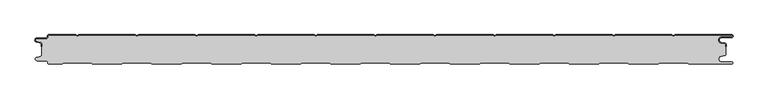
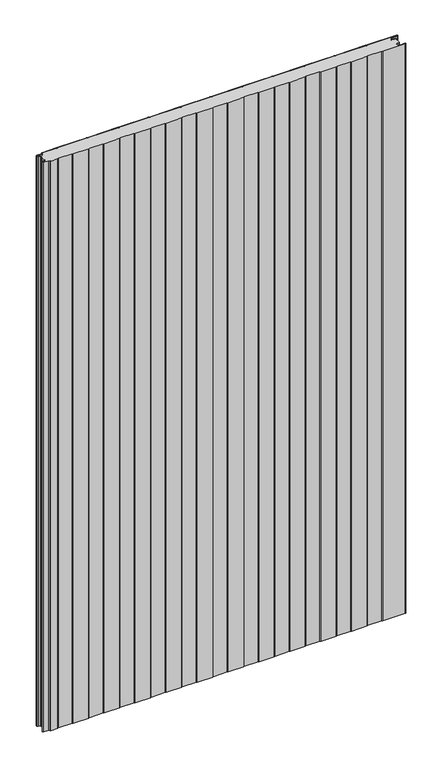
"""IFC4 building model written with IfcOpenShell, lengths in millimetres: plate geometry, PM1_Curtain-Panel_Perfil-Estándar : ACH_PM1_Panel-Acústico-Sectorización_50M."""

from ifc_helpers import new_model, si_unit, point, frame, frame_2d, origin, origin_with_axes, place, context, project, spatial, polyline, circle_curve, trimmed, segment, composite_curve, outline, extrude, source, transform, mapped, element, save
from ifc_brep_helpers import plane_surface, cylinder_surface, revolved_surface, advanced_brep


def plate_92d2c23e(model_context):
    return source(origin(), model_context, "Body", "SolidModel", [
        advanced_brep(
        [(-575.0, -15.878557, 1945.7507136), (-575.0, -20.0, 1945.7507136), (-574.2, -20.0, 1945.7507136), (-574.2, -15.878557, 1945.7507136), (-576.370137, -13.1503208, 1945.7507136), (-582.529863, -11.728236, 1945.7507136), (-581.9, -6.2, 1945.7507136), (-566.4, -6.2, 1945.7507136), (-563.6, -3.4, 1945.7507136), (-563.6, -2.0, 1945.7507136), (-562.4, -0.8, 1945.7507136), (-517.3143588, -0.8, 1945.7507136), (-514.4, -2.482606, 1945.7507136), (-511.4856412, -0.8, 1945.7507136), (-417.3143588, -0.8, 1945.7507136), (-414.4, -2.482606, 1945.7507136), (-411.4856412, -0.8, 1945.7507136), (-317.3143588, -0.8, 1945.7507136), (-314.4, -2.482606, 1945.7507136), (-311.4856412, -0.8, 1945.7507136), (-217.3143588, -0.8, 1945.7507136), (-214.4, -2.482606, 1945.7507136), (-211.4856412, -0.8, 1945.7507136), (-117.3143588, -0.8, 1945.7507136), (-114.4, -2.482606, 1945.7507136), (-111.4856412, -0.8, 1945.7507136), (-17.3143588, -0.8, 1945.7507136), (-14.4, -2.482606, 1945.7507136), (-11.4856412, -0.8, 1945.7507136), (82.6856412, -0.8, 1945.7507136), (85.6, -2.482606, 1945.7507136), (88.5143588, -0.8, 1945.7507136), (182.6856412, -0.8, 1945.7507136), (185.6, -2.482606, 1945.7507136), (188.5143588, -0.8, 1945.7507136), (282.6856412, -0.8, 1945.7507136), (285.6, -2.482606, 1945.7507136), (288.5143588, -0.8, 1945.7507136), (382.6856412, -0.8, 1945.7507136), (385.6, -2.482606, 1945.7507136), (388.5143588, -0.8, 1945.7507136), (482.6856412, -0.8, 1945.7507136), (485.6, -2.482606, 1945.7507136), (488.5143588, -0.8, 1945.7507136), (583.1, -0.8, 1945.7507136), (583.1, -4.2, 1945.7507136), (566.1, -4.2, 1945.7507136), (565.2664884, -13.7270771, 1945.7507136), (571.7125669, -14.8636953, 1945.7507136), (573.2, -16.6363492, 1945.7507136), (573.2, -20.0, 1945.7507136), (574.0, -20.0, 1945.7507136), (574.0, -16.6363492, 1945.7507136), (571.8514855, -14.0758491, 1945.7507136), (565.405407, -12.939231, 1945.7507136), (566.1, -5.0, 1945.7507136), (583.1, -5.0, 1945.7507136), (585.6, -2.5, 1945.7507136), (583.1, 0.0, 1945.7507136), (488.2999995, 0.0, 1945.7507136), (485.6, -1.5588455, 1945.7507136), (482.9000005, 0.0, 1945.7507136), (388.2999995, 0.0, 1945.7507136), (385.6, -1.5588455, 1945.7507136), (382.9000005, 0.0, 1945.7507136), (288.2999995, 0.0, 1945.7507136), (285.6, -1.5588455, 1945.7507136), (282.9000005, 0.0, 1945.7507136), (188.2999995, 0.0, 1945.7507136), (185.6, -1.5588455, 1945.7507136), (182.9000005, 0.0, 1945.7507136), (88.2999995, 0.0, 1945.7507136), (85.6, -1.5588455, 1945.7507136), (82.9000005, 0.0, 1945.7507136), (-11.7000005, 0.0, 1945.7507136), (-14.4, -1.5588455, 1945.7507136), (-17.0999995, 0.0, 1945.7507136), (-111.7000005, 0.0, 1945.7507136), (-114.4, -1.5588455, 1945.7507136), (-117.0999995, 0.0, 1945.7507136), (-211.7000005, 0.0, 1945.7507136), (-214.4, -1.5588455, 1945.7507136), (-217.0999995, 0.0, 1945.7507136), (-311.7000005, 0.0, 1945.7507136), (-314.4, -1.5588455, 1945.7507136), (-317.0999995, 0.0, 1945.7507136), (-411.7000005, 0.0, 1945.7507136), (-414.4, -1.5588455, 1945.7507136), (-417.0999995, 0.0, 1945.7507136), (-511.7000005, 0.0, 1945.7507136), (-514.4, -1.5588455, 1945.7507136), (-517.0999995, 0.0, 1945.7507136), (-562.4, 0.0, 1945.7507136), (-564.4, -2.0, 1945.7507136), (-564.4, -3.4, 1945.7507136), (-566.4, -5.4, 1945.7507136), (-581.9, -5.4, 1945.7507136), (-582.7098239, -12.5077322, 1945.7507136), (-576.5500979, -13.929817, 1945.7507136), (-575.0, -15.878557, 0.0), (-576.5500978, -13.9298169, 0.0), (-582.7098239, -12.507732, 0.0), (-581.9, -5.4, 0.0), (-566.4, -5.4, 0.0), (-564.4, -3.4, 0.0), (-564.4, -2.0, 0.0), (-562.4, 0.0, 0.0), (-517.0999995, 0.0, 0.0), (-514.4, -1.5588455, 0.0), (-511.7000005, 0.0, 0.0), (-417.0999995, 0.0, 0.0), (-414.4, -1.5588455, 0.0), (-411.7000005, 0.0, 0.0), (-317.0999995, 0.0, 0.0), (-314.4, -1.5588455, 0.0), (-311.7000005, 0.0, 0.0), (-217.0999995, 0.0, 0.0), (-214.4, -1.5588455, 0.0), (-211.7000005, 0.0, 0.0), (-117.0999995, 0.0, 0.0), (-114.4, -1.5588455, 0.0), (-111.7000005, 0.0, 0.0), (-17.0999995, 0.0, 0.0), (-14.4, -1.5588455, 0.0), (-11.7000005, 0.0, 0.0), (82.9000005, 0.0, 0.0), (85.6, -1.5588455, 0.0), (88.2999995, 0.0, 0.0), (182.9000005, 0.0, 0.0), (185.6, -1.5588455, 0.0), (188.2999995, 0.0, 0.0), (282.9000005, 0.0, 0.0), (285.6, -1.5588455, 0.0), (288.2999995, 0.0, 0.0), (382.9000005, 0.0, 0.0), (385.6, -1.5588455, 0.0), (388.2999995, 0.0, 0.0), (482.9000005, 0.0, 0.0), (485.6, -1.5588455, 0.0), (488.2999995, 0.0, 0.0), (583.1, 0.0, 0.0), (585.6, -2.5, 0.0), (583.1, -5.0, 0.0), (566.1, -5.0, 0.0), (565.405407, -12.939231, 0.0), (571.8514855, -14.0758491, 0.0), (574.0, -16.6363492, 0.0), (574.0, -20.0, 0.0), (573.2, -20.0, 0.0), (573.2, -16.6363492, 0.0), (571.7125669, -14.8636953, 0.0), (565.2664884, -13.7270772, 0.0), (566.1, -4.2, 0.0), (583.1, -4.2, 0.0), (583.1, -0.8, 0.0), (488.5143588, -0.8, 0.0), (485.6, -2.482606, 0.0), (482.6856412, -0.8, 0.0), (388.5143588, -0.8, 0.0), (385.6, -2.482606, 0.0), (382.6856412, -0.8, 0.0), (288.5143588, -0.8, 0.0), (285.6, -2.482606, 0.0), (282.6856412, -0.8, 0.0), (188.5143588, -0.8, 0.0), (185.6, -2.482606, 0.0), (182.6856412, -0.8, 0.0), (88.5143588, -0.8, 0.0), (85.6, -2.482606, 0.0), (82.6856412, -0.8, 0.0), (-11.4856412, -0.8, 0.0), (-14.4, -2.482606, 0.0), (-17.3143588, -0.8, 0.0), (-111.4856412, -0.8, 0.0), (-114.4, -2.482606, 0.0), (-117.3143588, -0.8, 0.0), (-211.4856412, -0.8, 0.0), (-214.4, -2.482606, 0.0), (-217.3143588, -0.8, 0.0), (-311.4856412, -0.8, 0.0), (-314.4, -2.482606, 0.0), (-317.3143588, -0.8, 0.0), (-411.4856412, -0.8, 0.0), (-414.4, -2.482606, 0.0), (-417.3143588, -0.8, 0.0), (-511.4856412, -0.8, 0.0), (-514.4, -2.482606, 0.0), (-517.3143588, -0.8, 0.0), (-562.4, -0.8, 0.0), (-563.6, -2.0, 0.0), (-563.6, -3.4, 0.0), (-566.4, -6.2, 0.0), (-581.9, -6.2, 0.0), (-582.529863, -11.7282362, 0.0), (-576.370137, -13.150321, 0.0), (-574.2, -15.878557, 0.0), (-574.2, -20.0, 0.0), (-575.0, -20.0, 0.0)],
        [
            (0, 1),
            (1, 2),
            (2, 3),
            (3, 4, circle_curve(frame((-577.0, -15.878557, 1945.7507136), z_axis=(0.0, 0.0, 1.0), x_axis=(1.0, 0.0, 0.0)), 2.8)),
            (4, 5),
            (5, 6, circle_curve(frame((-581.9, -9.0, 1945.7507136), z_axis=(0.0, 0.0, -1.0), x_axis=(1.0, 0.0, 0.0)), 2.8)),
            (6, 7),
            (7, 8, circle_curve(frame((-566.4, -3.4, 1945.7507136), z_axis=(0.0, 0.0, 1.0), x_axis=(1.0, 0.0, 0.0)), 2.8)),
            (8, 9),
            (9, 10, circle_curve(frame((-562.4, -2.0, 1945.7507136), z_axis=(0.0, 0.0, -1.0), x_axis=(1.0, 0.0, 0.0)), 1.2)),
            (10, 11),
            (11, 12),
            (12, 13),
            (13, 14),
            (14, 15),
            (15, 16),
            (16, 17),
            (17, 18),
            (18, 19),
            (19, 20),
            (20, 21),
            (21, 22),
            (22, 23),
            (23, 24),
            (24, 25),
            (25, 26),
            (26, 27),
            (27, 28),
            (28, 29),
            (29, 30),
            (30, 31),
            (31, 32),
            (32, 33),
            (33, 34),
            (34, 35),
            (35, 36),
            (36, 37),
            (37, 38),
            (38, 39),
            (39, 40),
            (40, 41),
            (41, 42),
            (42, 43),
            (43, 44),
            (44, 45, circle_curve(frame((583.1, -2.5, 1945.7507136), z_axis=(0.0, 0.0, -1.0), x_axis=(1.0, 0.0, 0.0)), 1.7)),
            (45, 46),
            (46, 47, circle_curve(frame((566.1, -9.0, 1945.7507136), z_axis=(0.0, 0.0, 1.0), x_axis=(1.0, 0.0, 0.0)), 4.8)),
            (47, 48),
            (48, 49, circle_curve(frame((571.4, -16.6363492, 1945.7507136), z_axis=(0.0, 0.0, -1.0), x_axis=(1.0, 0.0, 0.0)), 1.8)),
            (49, 50),
            (50, 51),
            (51, 52),
            (52, 53, circle_curve(frame((571.4, -16.6363492, 1945.7507136), z_axis=(0.0, 0.0, 1.0), x_axis=(1.0, 0.0, 0.0)), 2.6)),
            (53, 54),
            (54, 55, circle_curve(frame((566.1, -9.0, 1945.7507136), z_axis=(0.0, 0.0, -1.0), x_axis=(1.0, 0.0, 0.0)), 4.0)),
            (55, 56),
            (56, 57, circle_curve(frame((583.1, -2.5, 1945.7507136), z_axis=(0.0, 0.0, 1.0), x_axis=(1.0, 0.0, 0.0)), 2.5)),
            (57, 58, circle_curve(frame((583.1, -2.5, 1945.7507136), z_axis=(0.0, 0.0, 1.0), x_axis=(1.0, 0.0, 0.0)), 2.5)),
            (58, 59),
            (59, 60),
            (60, 61),
            (61, 62),
            (62, 63),
            (63, 64),
            (64, 65),
            (65, 66),
            (66, 67),
            (67, 68),
            (68, 69),
            (69, 70),
            (70, 71),
            (71, 72),
            (72, 73),
            (73, 74),
            (74, 75),
            (75, 76),
            (76, 77),
            (77, 78),
            (78, 79),
            (79, 80),
            (80, 81),
            (81, 82),
            (82, 83),
            (83, 84),
            (84, 85),
            (85, 86),
            (86, 87),
            (87, 88),
            (88, 89),
            (89, 90),
            (90, 91),
            (91, 92),
            (92, 93, circle_curve(frame((-562.4, -2.0, 1945.7507136), z_axis=(0.0, 0.0, 1.0), x_axis=(1.0, 0.0, 0.0)), 2.0)),
            (93, 94),
            (94, 95, circle_curve(frame((-566.4, -3.4, 1945.7507136), z_axis=(0.0, 0.0, -1.0), x_axis=(1.0, 0.0, 0.0)), 2.0)),
            (95, 96),
            (96, 97, circle_curve(frame((-581.9, -9.0, 1945.7507136), z_axis=(0.0, 0.0, 1.0), x_axis=(1.0, 0.0, 0.0)), 3.6)),
            (97, 98),
            (98, 0, circle_curve(frame((-577.0, -15.878557, 1945.7507136), z_axis=(0.0, 0.0, -1.0), x_axis=(1.0, 0.0, 0.0)), 2.0)),
            (99, 100, circle_curve(frame((-577.0, -15.878557, 0.0), z_axis=(0.0, 0.0, 1.0), x_axis=(1.0, 0.0, 0.0)), 2.0)),
            (100, 101),
            (101, 102, circle_curve(frame((-581.9, -9.0, 0.0), z_axis=(0.0, 0.0, -1.0), x_axis=(1.0, 0.0, 0.0)), 3.6)),
            (102, 103),
            (103, 104, circle_curve(frame((-566.4, -3.4, 0.0), z_axis=(0.0, 0.0, 1.0), x_axis=(1.0, 0.0, 0.0)), 2.0)),
            (104, 105),
            (105, 106, circle_curve(frame((-562.4, -2.0, 0.0), z_axis=(0.0, 0.0, -1.0), x_axis=(1.0, 0.0, 0.0)), 2.0)),
            (106, 107),
            (107, 108),
            (108, 109),
            (109, 110),
            (110, 111),
            (111, 112),
            (112, 113),
            (113, 114),
            (114, 115),
            (115, 116),
            (116, 117),
            (117, 118),
            (118, 119),
            (119, 120),
            (120, 121),
            (121, 122),
            (122, 123),
            (123, 124),
            (124, 125),
            (125, 126),
            (126, 127),
            (127, 128),
            (128, 129),
            (129, 130),
            (130, 131),
            (131, 132),
            (132, 133),
            (133, 134),
            (134, 135),
            (135, 136),
            (136, 137),
            (137, 138),
            (138, 139),
            (139, 140),
            (140, 141, circle_curve(frame((583.1, -2.5, 0.0), z_axis=(0.0, 0.0, -1.0), x_axis=(1.0, 0.0, 0.0)), 2.5)),
            (141, 142, circle_curve(frame((583.1, -2.5, 0.0), z_axis=(0.0, 0.0, -1.0), x_axis=(1.0, 0.0, 0.0)), 2.5)),
            (142, 143),
            (143, 144, circle_curve(frame((566.1, -9.0, 0.0), z_axis=(0.0, 0.0, 1.0), x_axis=(1.0, 0.0, 0.0)), 4.0)),
            (144, 145),
            (145, 146, circle_curve(frame((571.4, -16.6363492, 0.0), z_axis=(0.0, 0.0, -1.0), x_axis=(1.0, 0.0, 0.0)), 2.6)),
            (146, 147),
            (147, 148),
            (148, 149),
            (149, 150, circle_curve(frame((571.4, -16.6363492, 0.0), z_axis=(0.0, 0.0, 1.0), x_axis=(1.0, 0.0, 0.0)), 1.8)),
            (150, 151),
            (151, 152, circle_curve(frame((566.1, -9.0, 0.0), z_axis=(0.0, 0.0, -1.0), x_axis=(1.0, 0.0, 0.0)), 4.8)),
            (152, 153),
            (153, 154, circle_curve(frame((583.1, -2.5, 0.0), z_axis=(0.0, 0.0, 1.0), x_axis=(1.0, 0.0, 0.0)), 1.7)),
            (154, 155),
            (155, 156),
            (156, 157),
            (157, 158),
            (158, 159),
            (159, 160),
            (160, 161),
            (161, 162),
            (162, 163),
            (163, 164),
            (164, 165),
            (165, 166),
            (166, 167),
            (167, 168),
            (168, 169),
            (169, 170),
            (170, 171),
            (171, 172),
            (172, 173),
            (173, 174),
            (174, 175),
            (175, 176),
            (176, 177),
            (177, 178),
            (178, 179),
            (179, 180),
            (180, 181),
            (181, 182),
            (182, 183),
            (183, 184),
            (184, 185),
            (185, 186),
            (186, 187),
            (187, 188),
            (188, 189, circle_curve(frame((-562.4, -2.0, 0.0), z_axis=(0.0, 0.0, 1.0), x_axis=(1.0, 0.0, 0.0)), 1.2)),
            (189, 190),
            (190, 191, circle_curve(frame((-566.4, -3.4, 0.0), z_axis=(0.0, 0.0, -1.0), x_axis=(1.0, 0.0, 0.0)), 2.8)),
            (191, 192),
            (192, 193, circle_curve(frame((-581.9, -9.0, 0.0), z_axis=(0.0, 0.0, 1.0), x_axis=(1.0, 0.0, 0.0)), 2.8)),
            (193, 194),
            (194, 195, circle_curve(frame((-577.0, -15.878557, 0.0), z_axis=(0.0, 0.0, -1.0), x_axis=(1.0, 0.0, 0.0)), 2.8)),
            (195, 196),
            (196, 197),
            (197, 99),
            (0, 99),
            (197, 1),
            (196, 2),
            (195, 3),
            (194, 4),
            (193, 5),
            (192, 6),
            (191, 7),
            (190, 8),
            (189, 9),
            (188, 10),
            (187, 11),
            (186, 12),
            (185, 13),
            (184, 14),
            (183, 15),
            (182, 16),
            (181, 17),
            (180, 18),
            (179, 19),
            (178, 20),
            (177, 21),
            (176, 22),
            (175, 23),
            (174, 24),
            (173, 25),
            (172, 26),
            (171, 27),
            (170, 28),
            (169, 29),
            (168, 30),
            (167, 31),
            (166, 32),
            (165, 33),
            (164, 34),
            (163, 35),
            (162, 36),
            (161, 37),
            (160, 38),
            (159, 39),
            (158, 40),
            (157, 41),
            (156, 42),
            (155, 43),
            (154, 44),
            (153, 45),
            (152, 46),
            (151, 47),
            (150, 48),
            (149, 49),
            (148, 50),
            (147, 51),
            (146, 52),
            (145, 53),
            (144, 54),
            (143, 55),
            (142, 56),
            (140, 58),
            (139, 59),
            (138, 60),
            (137, 61),
            (136, 62),
            (135, 63),
            (134, 64),
            (133, 65),
            (132, 66),
            (131, 67),
            (130, 68),
            (129, 69),
            (128, 70),
            (127, 71),
            (126, 72),
            (125, 73),
            (124, 74),
            (123, 75),
            (122, 76),
            (121, 77),
            (120, 78),
            (119, 79),
            (118, 80),
            (117, 81),
            (116, 82),
            (115, 83),
            (114, 84),
            (113, 85),
            (112, 86),
            (111, 87),
            (110, 88),
            (109, 89),
            (108, 90),
            (107, 91),
            (106, 92),
            (105, 93),
            (104, 94),
            (103, 95),
            (102, 96),
            (101, 97),
            (100, 98),
        ],
        [
            plane_surface(frame((-575.0, 0.0, 1945.7507136), z_axis=(0.0, 0.0, 1.0), x_axis=(0.0, 1.0, 0.0))),
            plane_surface(frame((-575.0, 0.0, 0.0), z_axis=(0.0, 0.0, -1.0), x_axis=(0.0, 1.0, 0.0))),
            plane_surface(frame((-575.0, -15.878557, 1945.7507136), z_axis=(-1.0, 0.0, 0.0), x_axis=(0.0, 0.0, -1.0))),
            plane_surface(frame((-575.0, -20.0, 1945.7507136), z_axis=(0.0, -1.0, 0.0), x_axis=(0.0, 0.0, -1.0))),
            plane_surface(frame((-574.2, -20.0, 1945.7507136), z_axis=(1.0, 0.0, 0.0), x_axis=(0.0, 0.0, -1.0))),
            cylinder_surface(frame((-577.0, -15.878557, 1945.7507136), z_axis=(0.0, 0.0, 1.0), x_axis=(1.0, 0.0, 0.0)), 2.8),
            plane_surface(frame((-576.370137, -13.150321, 1945.7507136), z_axis=(0.22495108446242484, 0.9743700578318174, 0.0), x_axis=(0.0, 0.0, -1.0))),
            revolved_surface(polyline([(-579.1, -9.0, 0.0), (-579.1, -9.0, 1945.7507136)]), (-581.9, -9.0, 1945.7507136), (0.0, 0.0, -1.0)),
            plane_surface(frame((-581.9, -6.2, 1945.7507136), z_axis=(0.0, -1.0, 0.0), x_axis=(0.0, 0.0, -1.0))),
            cylinder_surface(frame((-566.4, -3.4, 1945.7507136), z_axis=(0.0, 0.0, 1.0), x_axis=(1.0, 0.0, 0.0)), 2.8),
            plane_surface(frame((-563.6, -3.4, 1945.7507136), z_axis=(1.0, 0.0, 0.0), x_axis=(0.0, 0.0, -1.0))),
            revolved_surface(polyline([(-561.1999999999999, -2.0, 0.0), (-561.1999999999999, -2.0, 1945.7507136)]), (-562.4, -2.0, 1945.7507136), (0.0, 0.0, -1.0)),
            plane_surface(frame((-562.4, -0.8, 1945.7507136), z_axis=(0.0, -1.0, 0.0), x_axis=(0.0, 0.0, -1.0))),
            plane_surface(frame((-517.3143588, -0.8, 1945.7507136), z_axis=(-0.5000000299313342, -0.8660253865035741, 0.0), x_axis=(0.0, 0.0, -1.0))),
            plane_surface(frame((-514.4, -2.482606, 1945.7507136), z_axis=(0.5000000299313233, -0.8660253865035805, 0.0), x_axis=(0.0, 0.0, -1.0))),
            plane_surface(frame((-511.4856412, -0.8, 1945.7507136), z_axis=(0.0, -1.0, 0.0), x_axis=(0.0, 0.0, -1.0))),
            plane_surface(frame((-417.3143588, -0.8, 1945.7507136), z_axis=(-0.5000000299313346, -0.8660253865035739, 0.0), x_axis=(0.0, 0.0, -1.0))),
            plane_surface(frame((-414.4, -2.482606, 1945.7507136), z_axis=(0.5000000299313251, -0.8660253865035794, 0.0), x_axis=(0.0, 0.0, -1.0))),
            plane_surface(frame((-411.4856412, -0.8, 1945.7507136), z_axis=(0.0, -1.0, 0.0), x_axis=(0.0, 0.0, -1.0))),
            plane_surface(frame((-317.3143588, -0.8, 1945.7507136), z_axis=(-0.5000000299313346, -0.866025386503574, 0.0), x_axis=(0.0, 0.0, -1.0))),
            plane_surface(frame((-314.4, -2.482606, 1945.7507136), z_axis=(0.5000000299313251, -0.8660253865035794, 0.0), x_axis=(0.0, 0.0, -1.0))),
            plane_surface(frame((-311.4856412, -0.8, 1945.7507136), z_axis=(0.0, -1.0, 0.0), x_axis=(0.0, 0.0, -1.0))),
            plane_surface(frame((-217.3143588, -0.8, 1945.7507136), z_axis=(-0.5000000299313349, -0.8660253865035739, 0.0), x_axis=(0.0, 0.0, -1.0))),
            plane_surface(frame((-214.4, -2.482606, 1945.7507136), z_axis=(0.5000000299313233, -0.8660253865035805, 0.0), x_axis=(0.0, 0.0, -1.0))),
            plane_surface(frame((-211.4856412, -0.8, 1945.7507136), z_axis=(0.0, -1.0, 0.0), x_axis=(0.0, 0.0, -1.0))),
            plane_surface(frame((-117.3143588, -0.8, 1945.7507136), z_axis=(-0.5000000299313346, -0.866025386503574, 0.0), x_axis=(0.0, 0.0, -1.0))),
            plane_surface(frame((-114.4, -2.482606, 1945.7507136), z_axis=(0.5000000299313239, -0.8660253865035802, 0.0), x_axis=(0.0, 0.0, -1.0))),
            plane_surface(frame((-111.4856412, -0.8, 1945.7507136), z_axis=(0.0, -1.0, 0.0), x_axis=(0.0, 0.0, -1.0))),
            plane_surface(frame((-17.3143588, -0.8, 1945.7507136), z_axis=(-0.5000000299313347, -0.8660253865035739, 0.0), x_axis=(0.0, 0.0, -1.0))),
            plane_surface(frame((-14.4, -2.482606, 1945.7507136), z_axis=(0.5000000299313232, -0.8660253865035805, 0.0), x_axis=(0.0, 0.0, -1.0))),
            plane_surface(frame((-11.4856412, -0.8, 1945.7507136), z_axis=(0.0, -1.0, 0.0), x_axis=(0.0, 0.0, -1.0))),
            plane_surface(frame((82.6856412, -0.8, 1945.7507136), z_axis=(-0.5000000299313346, -0.866025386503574, 0.0), x_axis=(0.0, 0.0, -1.0))),
            plane_surface(frame((85.6, -2.482606, 1945.7507136), z_axis=(0.5000000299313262, -0.8660253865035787, 0.0), x_axis=(0.0, 0.0, -1.0))),
            plane_surface(frame((88.5143588, -0.8, 1945.7507136), z_axis=(0.0, -1.0, 0.0), x_axis=(0.0, 0.0, -1.0))),
            plane_surface(frame((182.6856412, -0.8, 1945.7507136), z_axis=(-0.5000000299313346, -0.8660253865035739, 0.0), x_axis=(0.0, 0.0, -1.0))),
            plane_surface(frame((185.6, -2.482606, 1945.7507136), z_axis=(0.5000000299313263, -0.8660253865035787, 0.0), x_axis=(0.0, 0.0, -1.0))),
            plane_surface(frame((188.5143588, -0.8, 1945.7507136), z_axis=(0.0, -1.0, 0.0), x_axis=(0.0, 0.0, -1.0))),
            plane_surface(frame((282.6856412, -0.8, 1945.7507136), z_axis=(-0.5000000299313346, -0.8660253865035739, 0.0), x_axis=(0.0, 0.0, -1.0))),
            plane_surface(frame((285.6, -2.482606, 1945.7507136), z_axis=(0.5000000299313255, -0.8660253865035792, 0.0), x_axis=(0.0, 0.0, -1.0))),
            plane_surface(frame((288.5143588, -0.8, 1945.7507136), z_axis=(0.0, -1.0, 0.0), x_axis=(0.0, 0.0, -1.0))),
            plane_surface(frame((382.6856412, -0.8, 1945.7507136), z_axis=(-0.5000000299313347, -0.8660253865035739, 0.0), x_axis=(0.0, 0.0, -1.0))),
            plane_surface(frame((385.6, -2.482606, 1945.7507136), z_axis=(0.5000000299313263, -0.8660253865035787, 0.0), x_axis=(0.0, 0.0, -1.0))),
            plane_surface(frame((388.5143588, -0.8, 1945.7507136), z_axis=(0.0, -1.0, 0.0), x_axis=(0.0, 0.0, -1.0))),
            plane_surface(frame((482.6856412, -0.8, 1945.7507136), z_axis=(-0.5000000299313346, -0.866025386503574, 0.0), x_axis=(0.0, 0.0, -1.0))),
            plane_surface(frame((485.6, -2.482606, 1945.7507136), z_axis=(0.5000000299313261, -0.8660253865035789, 0.0), x_axis=(0.0, 0.0, -1.0))),
            plane_surface(frame((535.6, -0.8, 1945.7507136), z_axis=(0.0, -1.0, 0.0), x_axis=(0.0, 0.0, -1.0))),
            revolved_surface(polyline([(584.8000000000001, -2.5, 0.0), (584.8000000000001, -2.5, 1945.7507136)]), (583.1, -2.5, 1945.7507136), (0.0, 0.0, -1.0)),
            plane_surface(frame((583.1, -4.2, 1945.7507136), z_axis=(0.0, 1.0, 0.0), x_axis=(0.0, 0.0, -1.0))),
            cylinder_surface(frame((566.1, -9.0, 1945.7507136), z_axis=(0.0, 0.0, 1.0), x_axis=(1.0, 0.0, 0.0)), 4.8),
            plane_surface(frame((565.2664884, -13.7270772, 1945.7507136), z_axis=(-0.17364825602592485, -0.9848077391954, 0.0), x_axis=(0.0, 0.0, -1.0))),
            revolved_surface(polyline([(573.1999999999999, -16.6363492, 0.0), (573.1999999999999, -16.6363492, 1945.7507136)]), (571.4, -16.6363492, 1945.7507136), (0.0, 0.0, -1.0)),
            plane_surface(frame((573.2, -16.6363492, 1945.7507136), z_axis=(-1.0, 0.0, 0.0), x_axis=(0.0, 0.0, -1.0))),
            plane_surface(frame((573.2, -20.0, 1945.7507136), z_axis=(0.0, -1.0, 0.0), x_axis=(0.0, 0.0, -1.0))),
            plane_surface(frame((574.0, -20.0, 1945.7507136), z_axis=(1.0, 0.0, 0.0), x_axis=(0.0, 0.0, -1.0))),
            cylinder_surface(frame((571.4, -16.6363492, 1945.7507136), z_axis=(0.0, 0.0, 1.0), x_axis=(1.0, 0.0, 0.0)), 2.6),
            plane_surface(frame((571.8514855, -14.0758491, 1945.7507136), z_axis=(0.1736482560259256, 0.9848077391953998, 0.0), x_axis=(0.0, 0.0, -1.0))),
            revolved_surface(polyline([(570.1, -9.0, 0.0), (570.1, -9.0, 1945.7507136)]), (566.1, -9.0, 1945.7507136), (0.0, 0.0, -1.0)),
            plane_surface(frame((566.1, -5.0, 1945.7507136), z_axis=(0.0, -1.0, 0.0), x_axis=(0.0, 0.0, -1.0))),
            cylinder_surface(frame((583.1, -2.5, 1945.7507136), z_axis=(0.0, 0.0, 1.0), x_axis=(1.0, 0.0, 0.0)), 2.5),
            plane_surface(frame((535.6, 0.0, 1945.7507136), z_axis=(0.0, 1.0, 0.0), x_axis=(0.0, 0.0, -1.0))),
            plane_surface(frame((488.2999995, 0.0, 1945.7507136), z_axis=(-0.5000000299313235, 0.8660253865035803, 0.0), x_axis=(0.0, 0.0, -1.0))),
            plane_surface(frame((485.6, -1.5588455, 1945.7507136), z_axis=(0.5000000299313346, 0.8660253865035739, 0.0), x_axis=(0.0, 0.0, -1.0))),
            plane_surface(frame((482.9000005, 0.0, 1945.7507136), z_axis=(0.0, 1.0, 0.0), x_axis=(0.0, 0.0, -1.0))),
            plane_surface(frame((388.2999995, 0.0, 1945.7507136), z_axis=(-0.5000000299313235, 0.8660253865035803, 0.0), x_axis=(0.0, 0.0, -1.0))),
            plane_surface(frame((385.6, -1.5588455, 1945.7507136), z_axis=(0.5000000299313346, 0.8660253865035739, 0.0), x_axis=(0.0, 0.0, -1.0))),
            plane_surface(frame((382.9000005, 0.0, 1945.7507136), z_axis=(0.0, 1.0, 0.0), x_axis=(0.0, 0.0, -1.0))),
            plane_surface(frame((288.2999995, 0.0, 1945.7507136), z_axis=(-0.5000000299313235, 0.8660253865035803, 0.0), x_axis=(0.0, 0.0, -1.0))),
            plane_surface(frame((285.6, -1.5588455, 1945.7507136), z_axis=(0.5000000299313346, 0.8660253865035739, 0.0), x_axis=(0.0, 0.0, -1.0))),
            plane_surface(frame((282.9000005, 0.0, 1945.7507136), z_axis=(0.0, 1.0, 0.0), x_axis=(0.0, 0.0, -1.0))),
            plane_surface(frame((188.2999995, 0.0, 1945.7507136), z_axis=(-0.5000000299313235, 0.8660253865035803, 0.0), x_axis=(0.0, 0.0, -1.0))),
            plane_surface(frame((185.6, -1.5588455, 1945.7507136), z_axis=(0.5000000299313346, 0.8660253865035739, 0.0), x_axis=(0.0, 0.0, -1.0))),
            plane_surface(frame((182.9000005, 0.0, 1945.7507136), z_axis=(0.0, 1.0, 0.0), x_axis=(0.0, 0.0, -1.0))),
            plane_surface(frame((88.2999995, 0.0, 1945.7507136), z_axis=(-0.5000000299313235, 0.8660253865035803, 0.0), x_axis=(0.0, 0.0, -1.0))),
            plane_surface(frame((85.6, -1.5588455, 1945.7507136), z_axis=(0.5000000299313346, 0.8660253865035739, 0.0), x_axis=(0.0, 0.0, -1.0))),
            plane_surface(frame((82.9000005, 0.0, 1945.7507136), z_axis=(0.0, 1.0, 0.0), x_axis=(0.0, 0.0, -1.0))),
            plane_surface(frame((-11.7000005, 0.0, 1945.7507136), z_axis=(-0.5000000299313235, 0.8660253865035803, 0.0), x_axis=(0.0, 0.0, -1.0))),
            plane_surface(frame((-14.4, -1.5588455, 1945.7507136), z_axis=(0.5000000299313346, 0.8660253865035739, 0.0), x_axis=(0.0, 0.0, -1.0))),
            plane_surface(frame((-17.0999995, 0.0, 1945.7507136), z_axis=(0.0, 1.0, 0.0), x_axis=(0.0, 0.0, -1.0))),
            plane_surface(frame((-111.7000005, 0.0, 1945.7507136), z_axis=(-0.5000000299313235, 0.8660253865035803, 0.0), x_axis=(0.0, 0.0, -1.0))),
            plane_surface(frame((-114.4, -1.5588455, 1945.7507136), z_axis=(0.5000000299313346, 0.8660253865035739, 0.0), x_axis=(0.0, 0.0, -1.0))),
            plane_surface(frame((-117.0999995, 0.0, 1945.7507136), z_axis=(0.0, 1.0, 0.0), x_axis=(0.0, 0.0, -1.0))),
            plane_surface(frame((-211.7000005, 0.0, 1945.7507136), z_axis=(-0.5000000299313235, 0.8660253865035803, 0.0), x_axis=(0.0, 0.0, -1.0))),
            plane_surface(frame((-214.4, -1.5588455, 1945.7507136), z_axis=(0.5000000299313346, 0.8660253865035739, 0.0), x_axis=(0.0, 0.0, -1.0))),
            plane_surface(frame((-217.0999995, 0.0, 1945.7507136), z_axis=(0.0, 1.0, 0.0), x_axis=(0.0, 0.0, -1.0))),
            plane_surface(frame((-311.7000005, 0.0, 1945.7507136), z_axis=(-0.5000000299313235, 0.8660253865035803, 0.0), x_axis=(0.0, 0.0, -1.0))),
            plane_surface(frame((-314.4, -1.5588455, 1945.7507136), z_axis=(0.5000000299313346, 0.8660253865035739, 0.0), x_axis=(0.0, 0.0, -1.0))),
            plane_surface(frame((-317.0999995, 0.0, 1945.7507136), z_axis=(0.0, 1.0, 0.0), x_axis=(0.0, 0.0, -1.0))),
            plane_surface(frame((-411.7000005, 0.0, 1945.7507136), z_axis=(-0.5000000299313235, 0.8660253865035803, 0.0), x_axis=(0.0, 0.0, -1.0))),
            plane_surface(frame((-414.4, -1.5588455, 1945.7507136), z_axis=(0.5000000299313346, 0.8660253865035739, 0.0), x_axis=(0.0, 0.0, -1.0))),
            plane_surface(frame((-417.0999995, 0.0, 1945.7507136), z_axis=(0.0, 1.0, 0.0), x_axis=(0.0, 0.0, -1.0))),
            plane_surface(frame((-511.7000005, 0.0, 1945.7507136), z_axis=(-0.5000000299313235, 0.8660253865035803, 0.0), x_axis=(0.0, 0.0, -1.0))),
            plane_surface(frame((-514.4, -1.5588455, 1945.7507136), z_axis=(0.5000000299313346, 0.8660253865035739, 0.0), x_axis=(0.0, 0.0, -1.0))),
            plane_surface(frame((-517.0999995, 0.0, 1945.7507136), z_axis=(0.0, 1.0, 0.0), x_axis=(0.0, 0.0, -1.0))),
            cylinder_surface(frame((-562.4, -2.0, 1945.7507136), z_axis=(0.0, 0.0, 1.0), x_axis=(1.0, 0.0, 0.0)), 2.0),
            plane_surface(frame((-564.4, -2.0, 1945.7507136), z_axis=(-1.0, 0.0, 0.0), x_axis=(0.0, 0.0, -1.0))),
            revolved_surface(polyline([(-564.4, -3.4, 0.0), (-564.4, -3.4, 1945.7507136)]), (-566.4, -3.4, 1945.7507136), (0.0, 0.0, -1.0)),
            plane_surface(frame((-566.4, -5.4, 1945.7507136), z_axis=(0.0, 1.0, 0.0), x_axis=(0.0, 0.0, -1.0))),
            cylinder_surface(frame((-581.9, -9.0, 1945.7507136), z_axis=(0.0, 0.0, 1.0), x_axis=(1.0, 0.0, 0.0)), 3.6),
            plane_surface(frame((-582.7098239, -12.507732, 1945.7507136), z_axis=(-0.22495108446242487, -0.9743700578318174, 0.0), x_axis=(0.0, 0.0, -1.0))),
            revolved_surface(polyline([(-575.0, -15.878557, 0.0), (-575.0, -15.878557, 1945.7507136)]), (-577.0, -15.878557, 1945.7507136), (0.0, 0.0, -1.0)),
        ],
        [
            (0, [[1, 2, 3, 4, 5, 6, 7, 8, 9, 10, 11, 12, 13, 14, 15, 16, 17, 18, 19, 20, 21, 22, 23, 24, 25, 26, 27, 28, 29, 30, 31, 32, 33, 34, 35, 36, 37, 38, 39, 40, 41, 42, 43, 44, 45, 46, 47, 48, 49, 50, 51, 52, 53, 54, 55, 56, 57, 58, 59, 60, 61, 62, 63, 64, 65, 66, 67, 68, 69, 70, 71, 72, 73, 74, 75, 76, 77, 78, 79, 80, 81, 82, 83, 84, 85, 86, 87, 88, 89, 90, 91, 92, 93, 94, 95, 96, 97, 98, 99]]),
            (1, [[100, 101, 102, 103, 104, 105, 106, 107, 108, 109, 110, 111, 112, 113, 114, 115, 116, 117, 118, 119, 120, 121, 122, 123, 124, 125, 126, 127, 128, 129, 130, 131, 132, 133, 134, 135, 136, 137, 138, 139, 140, 141, 142, 143, 144, 145, 146, 147, 148, 149, 150, 151, 152, 153, 154, 155, 156, 157, 158, 159, 160, 161, 162, 163, 164, 165, 166, 167, 168, 169, 170, 171, 172, 173, 174, 175, 176, 177, 178, 179, 180, 181, 182, 183, 184, 185, 186, 187, 188, 189, 190, 191, 192, 193, 194, 195, 196, 197, 198]]),
            (2, [[-1, 199, -198, 200]]),
            (3, [[-2, -200, -197, 201]]),
            (4, [[-3, -201, -196, 202]]),
            (5, [[-4, -202, -195, 203]]),
            (6, [[-5, -203, -194, 204]]),
            (7, [[-6, -204, -193, 205]]),
            (8, [[-7, -205, -192, 206]]),
            (9, [[-8, -206, -191, 207]]),
            (10, [[-9, -207, -190, 208]]),
            (11, [[-10, -208, -189, 209]]),
            (12, [[-11, -209, -188, 210]]),
            (13, [[-12, -210, -187, 211]]),
            (14, [[-13, -211, -186, 212]]),
            (15, [[-14, -212, -185, 213]]),
            (16, [[-15, -213, -184, 214]]),
            (17, [[-16, -214, -183, 215]]),
            (18, [[-17, -215, -182, 216]]),
            (19, [[-18, -216, -181, 217]]),
            (20, [[-19, -217, -180, 218]]),
            (21, [[-20, -218, -179, 219]]),
            (22, [[-21, -219, -178, 220]]),
            (23, [[-22, -220, -177, 221]]),
            (24, [[-23, -221, -176, 222]]),
            (25, [[-24, -222, -175, 223]]),
            (26, [[-25, -223, -174, 224]]),
            (27, [[-26, -224, -173, 225]]),
            (28, [[-27, -225, -172, 226]]),
            (29, [[-28, -226, -171, 227]]),
            (30, [[-29, -227, -170, 228]]),
            (31, [[-30, -228, -169, 229]]),
            (32, [[-31, -229, -168, 230]]),
            (33, [[-32, -230, -167, 231]]),
            (34, [[-33, -231, -166, 232]]),
            (35, [[-34, -232, -165, 233]]),
            (36, [[-35, -233, -164, 234]]),
            (37, [[-36, -234, -163, 235]]),
            (38, [[-37, -235, -162, 236]]),
            (39, [[-38, -236, -161, 237]]),
            (40, [[-39, -237, -160, 238]]),
            (41, [[-40, -238, -159, 239]]),
            (42, [[-41, -239, -158, 240]]),
            (43, [[-42, -240, -157, 241]]),
            (44, [[-43, -241, -156, 242]]),
            (45, [[-44, -242, -155, 243]]),
            (46, [[-45, -243, -154, 244]]),
            (47, [[-46, -244, -153, 245]]),
            (48, [[-47, -245, -152, 246]]),
            (49, [[-48, -246, -151, 247]]),
            (50, [[-49, -247, -150, 248]]),
            (51, [[-50, -248, -149, 249]]),
            (52, [[-51, -249, -148, 250]]),
            (53, [[-52, -250, -147, 251]]),
            (54, [[-53, -251, -146, 252]]),
            (55, [[-54, -252, -145, 253]]),
            (56, [[-55, -253, -144, 254]]),
            (57, [[-56, -254, -143, 255]]),
            (58, [[-255, -142, -141, 256, -58, -57]]),
            (59, [[-59, -256, -140, 257]]),
            (60, [[-60, -257, -139, 258]]),
            (61, [[-61, -258, -138, 259]]),
            (62, [[-62, -259, -137, 260]]),
            (63, [[-63, -260, -136, 261]]),
            (64, [[-64, -261, -135, 262]]),
            (65, [[-65, -262, -134, 263]]),
            (66, [[-66, -263, -133, 264]]),
            (67, [[-67, -264, -132, 265]]),
            (68, [[-68, -265, -131, 266]]),
            (69, [[-69, -266, -130, 267]]),
            (70, [[-70, -267, -129, 268]]),
            (71, [[-71, -268, -128, 269]]),
            (72, [[-72, -269, -127, 270]]),
            (73, [[-73, -270, -126, 271]]),
            (74, [[-74, -271, -125, 272]]),
            (75, [[-75, -272, -124, 273]]),
            (76, [[-76, -273, -123, 274]]),
            (77, [[-77, -274, -122, 275]]),
            (78, [[-78, -275, -121, 276]]),
            (79, [[-79, -276, -120, 277]]),
            (80, [[-80, -277, -119, 278]]),
            (81, [[-81, -278, -118, 279]]),
            (82, [[-82, -279, -117, 280]]),
            (83, [[-83, -280, -116, 281]]),
            (84, [[-84, -281, -115, 282]]),
            (85, [[-85, -282, -114, 283]]),
            (86, [[-86, -283, -113, 284]]),
            (87, [[-87, -284, -112, 285]]),
            (88, [[-88, -285, -111, 286]]),
            (89, [[-89, -286, -110, 287]]),
            (90, [[-90, -287, -109, 288]]),
            (91, [[-91, -288, -108, 289]]),
            (92, [[-92, -289, -107, 290]]),
            (93, [[-93, -290, -106, 291]]),
            (94, [[-94, -291, -105, 292]]),
            (95, [[-95, -292, -104, 293]]),
            (96, [[-96, -293, -103, 294]]),
            (97, [[-97, -294, -102, 295]]),
            (98, [[-98, -295, -101, 296]]),
            (99, [[-99, -296, -100, -199]]),
        ],
    ),
        extrude(outline(composite_curve([segment(polyline([(-574.2, -34.121443), (-574.2, -15.8785573)]), True, "CONTINUOUS"), segment(trimmed(circle_curve(frame_2d((-577.0, -15.8785573)), 2.8), [point((-574.2, -15.8785573))], [point((-576.370137, -13.1503212))], True, "CARTESIAN"), True, "CONTINUOUS"), segment(polyline([(-576.370137, -13.1503212), (-582.5298631, -11.7282362)]), True, "CONTINUOUS"), segment(trimmed(circle_curve(frame_2d((-581.9, -9.0)), 2.8), [point((-582.5298631, -11.7282362))], [point((-581.9, -6.2))], False, "CARTESIAN"), True, "CONTINUOUS"), segment(polyline([(-581.9, -6.2), (-566.4000001, -6.2)]), True, "CONTINUOUS"), segment(trimmed(circle_curve(frame_2d((-566.4000001, -3.4)), 2.8), [point((-566.4000001, -6.2))], [point((-563.6000001, -3.4))], True, "CARTESIAN"), True, "CONTINUOUS"), segment(polyline([(-563.6000001, -3.4), (-563.6000001, -2.0)]), True, "CONTINUOUS"), segment(trimmed(circle_curve(frame_2d((-562.4000001, -2.0)), 1.2), [point((-563.6000001, -2.0))], [point((-562.4000001, -0.8))], False, "CARTESIAN"), True, "CONTINUOUS"), segment(polyline([(-562.4000001, -0.8), (-517.3143589, -0.8), (-514.4000001, -2.482606), (-511.4856412, -0.8), (-417.3143589, -0.8), (-414.4000001, -2.482606), (-411.4856412, -0.8), (-317.3143589, -0.8), (-314.4000001, -2.482606), (-311.4856412, -0.8), (-217.3143589, -0.8), (-214.4000001, -2.482606), (-211.4856412, -0.8), (-117.3143589, -0.8), (-114.4000001, -2.482606), (-111.4856412, -0.8), (-17.3143589, -0.8), (-14.4000001, -2.482606), (-11.4856412, -0.8), (82.6856411, -0.8), (85.5999999, -2.482606), (88.5143588, -0.8), (182.6856411, -0.8), (185.5999999, -2.482606), (188.5143588, -0.8), (282.6856411, -0.8), (285.5999999, -2.482606), (288.5143588, -0.8), (382.6856411, -0.8), (385.5999999, -2.482606), (388.5143588, -0.8), (482.6856411, -0.8), (485.6, -2.482606), (488.5143588, -0.8), (583.1, -0.8)]), True, "CONTINUOUS"), segment(trimmed(circle_curve(frame_2d((583.1, -2.5)), 1.7), [point((583.1, -0.8))], [point((583.1, -4.2))], False, "CARTESIAN"), True, "CONTINUOUS"), segment(polyline([(583.1, -4.2), (566.1, -4.2)]), True, "CONTINUOUS"), segment(trimmed(circle_curve(frame_2d((566.1, -9.0)), 4.8), [point((566.1, -4.2))], [point((565.2664883, -13.7270771))], True, "CARTESIAN"), True, "CONTINUOUS"), segment(polyline([(565.2664883, -13.7270771), (571.7125668, -14.8636953)]), True, "CONTINUOUS"), segment(trimmed(circle_curve(frame_2d((571.4, -16.6363492)), 1.8), [point((571.7125668, -14.8636953))], [point((573.2, -16.6363492))], False, "CARTESIAN"), True, "CONTINUOUS"), segment(polyline([(573.2, -16.6363492), (573.2, -33.363652)]), True, "CONTINUOUS"), segment(trimmed(circle_curve(frame_2d((571.4, -33.363652)), 1.8), [point((573.2, -33.363652))], [point((571.7125666, -35.136306))], False, "CARTESIAN"), True, "CONTINUOUS"), segment(polyline([(571.7125666, -35.136306), (565.266489, -36.2729231)]), True, "CONTINUOUS"), segment(trimmed(circle_curve(frame_2d((566.1, -41.0000002)), 4.7999999), [point((565.266489, -36.2729231))], [point((566.1, -45.8000001))], True, "CARTESIAN"), True, "CONTINUOUS"), segment(polyline([(566.1, -45.8000001), (583.1, -45.8000001)]), True, "CONTINUOUS"), segment(trimmed(circle_curve(frame_2d((583.1, -47.5)), 1.7), [point((583.1, -45.8000001))], [point((583.1, -49.2))], False, "CARTESIAN"), True, "CONTINUOUS"), segment(polyline([(583.1, -49.2), (510.8105122, -49.2), (508.2124346, -47.7), (462.9837184, -47.7), (460.3856408, -49.2), (410.8105122, -49.2), (408.2124346, -47.7), (362.9837184, -47.7), (360.3856408, -49.2), (310.8105122, -49.2), (308.2124346, -47.7), (262.9837184, -47.7), (260.3856408, -49.2), (210.8105122, -49.2), (208.2124346, -47.7), (162.9837184, -47.7), (160.3856408, -49.2), (110.8105122, -49.2), (108.2124346, -47.7), (62.9837184, -47.7), (60.3856408, -49.2), (10.8105122, -49.2), (8.2124346, -47.7), (-37.0162816, -47.7), (-39.6143592, -49.2), (-89.1894878, -49.2), (-91.7875654, -47.7), (-137.0162816, -47.7), (-139.6143592, -49.2), (-189.1894878, -49.2), (-191.7875654, -47.7), (-237.0162816, -47.7), (-239.6143592, -49.2), (-289.1894878, -49.2), (-291.7875654, -47.7), (-337.0162816, -47.7), (-339.6143592, -49.2), (-389.1894878, -49.2), (-391.7875654, -47.7), (-437.0162816, -47.7), (-439.6143592, -49.2), (-489.1894878, -49.2), (-491.7875654, -47.7), (-537.0162816, -47.7), (-539.6143592, -49.2), (-562.4, -49.2)]), True, "CONTINUOUS"), segment(trimmed(circle_curve(frame_2d((-562.4, -48.0)), 1.2), [point((-562.4, -49.2))], [point((-563.6, -48.0))], False, "CARTESIAN"), True, "CONTINUOUS"), segment(polyline([(-563.6, -48.0), (-563.6, -46.5999998)]), True, "CONTINUOUS"), segment(trimmed(circle_curve(frame_2d((-566.4, -46.5999998)), 2.8), [point((-563.6, -46.5999998))], [point((-566.4, -43.7999998))], True, "CARTESIAN"), True, "CONTINUOUS"), segment(polyline([(-566.4, -43.7999998), (-581.9, -43.7999998)]), True, "CONTINUOUS"), segment(trimmed(circle_curve(frame_2d((-581.9, -41.0)), 2.7999998), [point((-581.9, -43.7999998))], [point((-582.529863, -38.271764))], False, "CARTESIAN"), True, "CONTINUOUS"), segment(polyline([(-582.529863, -38.271764), (-576.370137, -36.8496792)]), True, "CONTINUOUS"), segment(trimmed(circle_curve(frame_2d((-577.0, -34.121443)), 2.8), [point((-576.370137, -36.8496792))], [point((-574.2, -34.121443))], True, "CARTESIAN"), True, "CONTINUOUS")], self_intersect=False)), origin_with_axes(), (0.0, 0.0, 1.0), 1945.7507136),
    ])


if __name__ == "__main__":
    model = new_model("IFC4")
    model_context = context("Model", 3, world=origin())
    ifc_project = project(units=[si_unit("LENGTHUNIT", "METRE", prefix="MILLI")], contexts=[model_context])
    site = spatial("IfcSite", under=ifc_project)
    building = spatial("IfcBuilding", under=site)
    placement = place(None, origin())
    plate_shape = plate_92d2c23e(model_context)
    element("IfcPlate", 1, ObjectType="PM1_Curtain-Panel_Perfil-Estándar : ACH_PM1_Panel-Acústico-Sectorización_50M", at=placement, inside=building, context=model_context, shape_type="MappedRepresentation", body=[
        mapped(plate_shape, transform((0.0, 0.0, 0.0), x_axis=(1.0, 0.0, 0.0), y_axis=(0.0, 1.0, 0.0), z_axis=(0.0, 0.0, 1.0))),
    ])
    save(model, "model.ifc")
